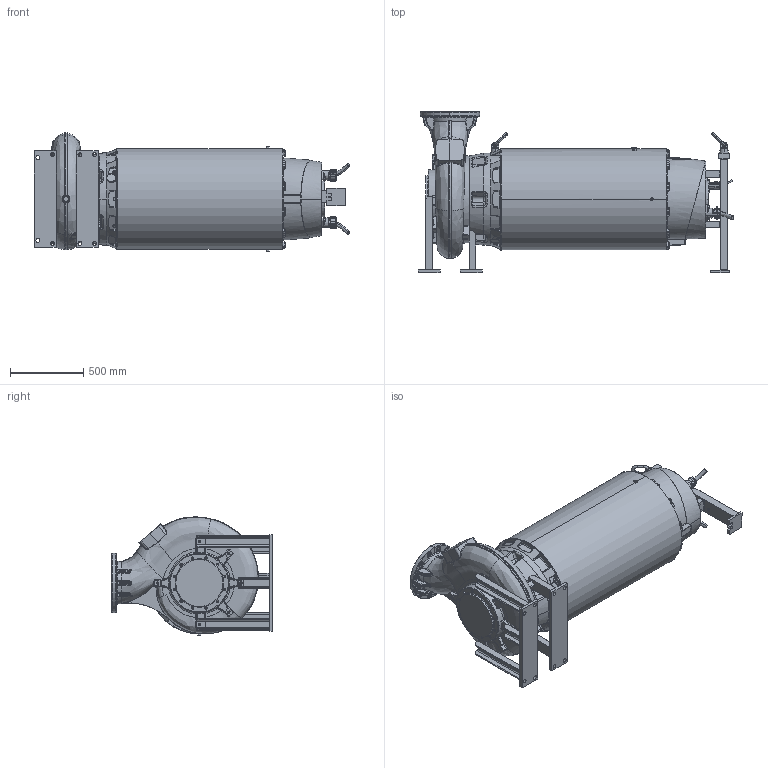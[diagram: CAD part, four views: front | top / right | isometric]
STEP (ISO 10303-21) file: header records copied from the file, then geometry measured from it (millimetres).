
FILE_DESCRIPTION (( 'STEP AP214' ), '1' );
FILE_NAME ('PE6_XFP250M-CH2_DRY HA_B_NG2.STEP', '2017-02-15T05:42:30', ( '' ), ( '' ), 'SwSTEP 2.0', 'SolidWorks 2017', '' );
FILE_SCHEMA (( 'AUTOMOTIVE_DESIGN' ));
Length unit declared in the file: millimetre
Products named in the file (1): PE6_XFP250M-CH2_DRY HA_B_NG2
Bounding box: 2153.08 x 1100 x 807.66 mm (x, y, z)
Volume: 678214272.4 mm3; surface area: 7195043.9 mm2
Topology: 6 solids, 18 shells, 3445 faces, 8422 edges, 4890 vertices
Faces by surface type: plane 941, bspline 867, cylinder 748, cone 365, torus 360, sphere 164
Entity records: 203498 total; most frequent: CARTESIAN_POINT 92208, ORIENTED_EDGE 16410, DIRECTION 13939, EDGE_CURVE 8205, AXIS2_PLACEMENT_3D 5585, VERTEX_POINT 4884, EDGE_LOOP 3651, UNCERTAINTY_MEASURE_WITH_UNIT 3453
